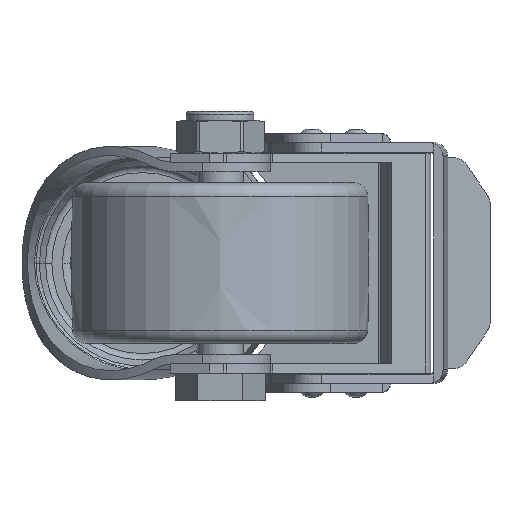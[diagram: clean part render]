
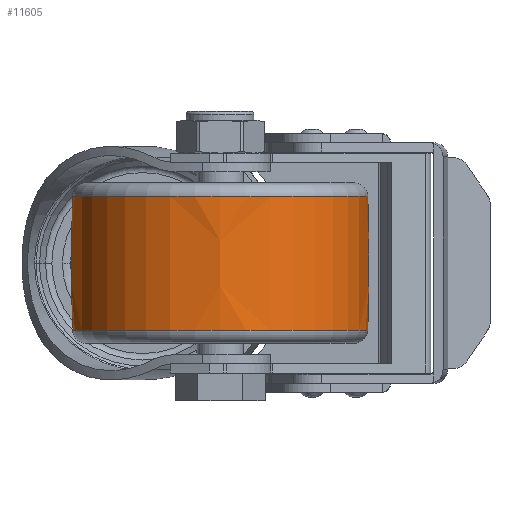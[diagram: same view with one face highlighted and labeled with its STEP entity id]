
A CAD part, front view. The second image highlights one B-rep face of the part: STEP entity #11605.
In plain terms, the highlighted free-form (B-spline) face has degree [3, 3] with [7, 4] control points.
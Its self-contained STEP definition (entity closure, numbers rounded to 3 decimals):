
#10949=CARTESIAN_POINT('',(0.,-367.754,0.));
#10950=DIRECTION('',(0.,0.,1.));
#10951=DIRECTION('',(0.037,0.999,0.));
#10952=AXIS2_PLACEMENT_3D('',#10949,#10950,#10951);
#10954=CARTESIAN_POINT('',(0.,367.754,0.));
#10955=DIRECTION('',(0.,0.,-1.));
#10956=DIRECTION('',(0.037,-0.999,0.));
#10957=AXIS2_PLACEMENT_3D('',#10954,#10955,#10956);
#10959=CARTESIAN_POINT('',(14.61,0.,0.));
#10960=DIRECTION('',(-1.,0.,0.));
#10961=DIRECTION('',(0.,1.,0.));
#10962=AXIS2_PLACEMENT_3D('',#10959,#10960,#10961);
#10984=CARTESIAN_POINT('',(-14.61,0.,0.));
#10985=DIRECTION('',(-1.,0.,0.));
#10986=DIRECTION('',(0.,1.,0.));
#10987=AXIS2_PLACEMENT_3D('',#10984,#10985,#10986);
#11026=CARTESIAN_POINT('',(14.61,32.23,0.));
#11028=VERTEX_POINT('',#11026);
#11029=CARTESIAN_POINT('',(-14.61,32.23,0.));
#11030=VERTEX_POINT('',#11029);
#11070=CARTESIAN_POINT('',(14.61,-32.23,0.));
#11072=VERTEX_POINT('',#11070);
#11073=CARTESIAN_POINT('',(-14.61,-32.23,0.));
#11074=VERTEX_POINT('',#11073);
#11567=CARTESIAN_POINT('',(-15.194,-32.144,
2.022));
#11568=CARTESIAN_POINT('',(-5.067,-32.528,
2.046));
#11569=CARTESIAN_POINT('',(5.067,-32.528,
2.046));
#11570=CARTESIAN_POINT('',(15.194,-32.144,
2.022));
#11571=CARTESIAN_POINT('',(-15.194,-33.389,
-17.759));
#11572=CARTESIAN_POINT('',(-5.067,-33.788,
-17.971));
#11573=CARTESIAN_POINT('',(5.067,-33.788,
-17.971));
#11574=CARTESIAN_POINT('',(15.194,-33.389,
-17.759));
#11575=CARTESIAN_POINT('',(-15.194,-19.821,
-32.208));
#11576=CARTESIAN_POINT('',(-5.067,-20.057,
-32.592));
#11577=CARTESIAN_POINT('',(5.067,-20.057,
-32.592));
#11578=CARTESIAN_POINT('',(15.194,-19.821,
-32.208));
#11579=CARTESIAN_POINT('',(-15.194,0.,-32.208));
#11580=CARTESIAN_POINT('',(-5.067,0.,-32.592));
#11581=CARTESIAN_POINT('',(5.067,0.,-32.592));
#11582=CARTESIAN_POINT('',(15.194,0.,-32.208));
#11583=CARTESIAN_POINT('',(-15.194,19.821,
-32.208));
#11584=CARTESIAN_POINT('',(-5.067,20.057,
-32.592));
#11585=CARTESIAN_POINT('',(5.067,20.057,
-32.592));
#11586=CARTESIAN_POINT('',(15.194,19.821,
-32.208));
#11587=CARTESIAN_POINT('',(-15.194,33.389,
-17.759));
#11588=CARTESIAN_POINT('',(-5.067,33.788,
-17.971));
#11589=CARTESIAN_POINT('',(5.067,33.788,
-17.971));
#11590=CARTESIAN_POINT('',(15.194,33.389,
-17.759));
#11591=CARTESIAN_POINT('',(-15.194,32.144,
2.022));
#11592=CARTESIAN_POINT('',(-5.067,32.528,
2.046));
#11593=CARTESIAN_POINT('',(5.067,32.528,2.046));
#11594=CARTESIAN_POINT('',(15.194,32.144,2.022));
#11595=(BOUNDED_SURFACE()B_SPLINE_SURFACE(3,3,((#11567,#11568,#11569,#11570),(
#11571,#11572,#11573,#11574),(#11575,#11576,#11577,#11578),(#11579,#11580,
#11581,#11582),(#11583,#11584,#11585,#11586),(#11587,#11588,#11589,#11590),(
#11591,#11592,#11593,#11594)),.UNSPECIFIED.,.F.,.F.,.F.)B_SPLINE_SURFACE_WITH_KNOTS((4,3,4),(4,4),(0.,1.,2.),(0.,1.),.UNSPECIFIED.)GEOMETRIC_REPRESENTATION_ITEM()RATIONAL_B_SPLINE_SURFACE(((1.188,1.187,
1.187,1.188),(0.938,0.937,
0.937,0.938),(0.938,0.937,
0.937,0.938),(1.188,1.187,
1.187,1.188),(0.938,0.937,
0.937,0.938),(0.938,0.937,
0.937,0.938),(1.188,1.187,
1.187,1.188)))REPRESENTATION_ITEM('')SURFACE());
#11597=ORIENTED_EDGE('',*,*,#11596,.T.);
#11599=ORIENTED_EDGE('',*,*,#11598,.T.);
#11601=ORIENTED_EDGE('',*,*,#11600,.F.);
#11602=ORIENTED_EDGE('',*,*,#11560,.F.);
#11603=EDGE_LOOP('',(#11597,#11599,#11601,#11602));
#11604=FACE_OUTER_BOUND('',#11603,.F.);
#10953=CIRCLE('',#10952,400.25);
#10958=CIRCLE('',#10957,400.25);
#10963=CIRCLE('',#10962,32.23);
#10988=CIRCLE('',#10987,32.23);
#11560=EDGE_CURVE('',#11028,#11072,#10963,.T.);
#11596=EDGE_CURVE('',#11028,#11030,#10953,.T.);
#11598=EDGE_CURVE('',#11030,#11074,#10988,.T.);
#11600=EDGE_CURVE('',#11072,#11074,#10958,.T.);
#11605=ADVANCED_FACE('',(#11604),#11595,.T.);
